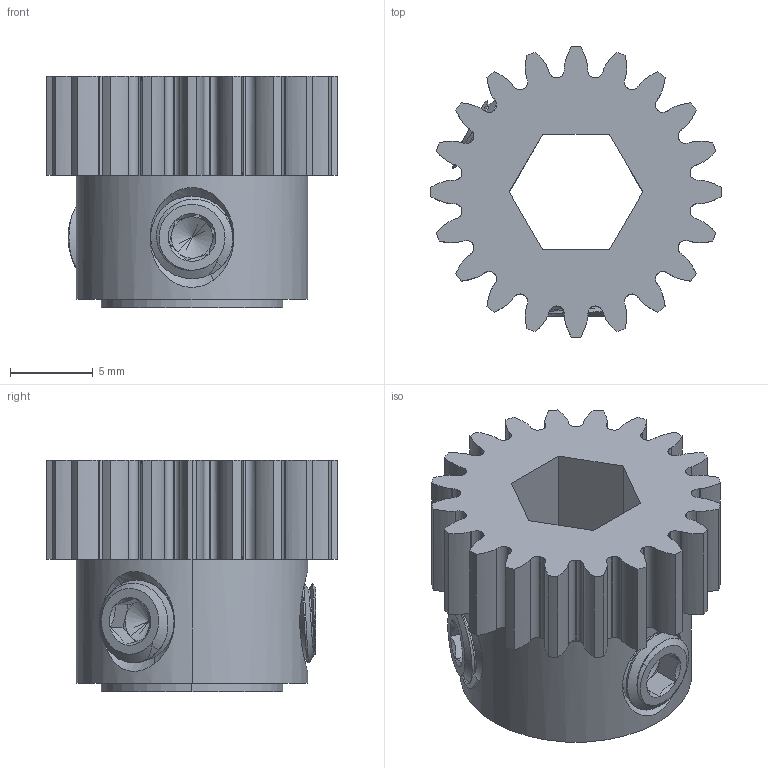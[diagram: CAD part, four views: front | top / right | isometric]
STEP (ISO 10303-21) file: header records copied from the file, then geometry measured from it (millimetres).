
FILE_DESCRIPTION (( 'STEP AP203' ), '1' );
FILE_NAME ('2303-4008-0020 assembly.STEP', '2024-07-22T21:58:24', ( '' ), ( '' ), 'SwSTEP 2.0', 'SolidWorks 2016', '' );
FILE_SCHEMA (( 'CONFIG_CONTROL_DESIGN' ));
Length unit declared in the file: millimetre
Products named in the file (3): 2806-0005-0004_91390A117; 2303-4008-0020; 2303-4008-0020 assembly
Assembly tree (3 placements, depth 2):
  2303-4008-0020 assembly
    2303-4008-0020
    2806-0005-0004_91390A117  x2
Bounding box: 17.6 x 17.6 x 14 mm (x, y, z)
Volume: 1773.4 mm3; surface area: 1900.7 mm2
Topology: 3 solids, 3 shells, 306 faces, 861 edges, 556 vertices
Faces by surface type: plane 97, bspline 96, cylinder 77, cone 36
Entity records: 21263 total; most frequent: CARTESIAN_POINT 14852, ORIENTED_EDGE 1526, DIRECTION 931, EDGE_CURVE 763, VERTEX_POINT 503, LINE 333, VECTOR 333, AXIS2_PLACEMENT_3D 299
